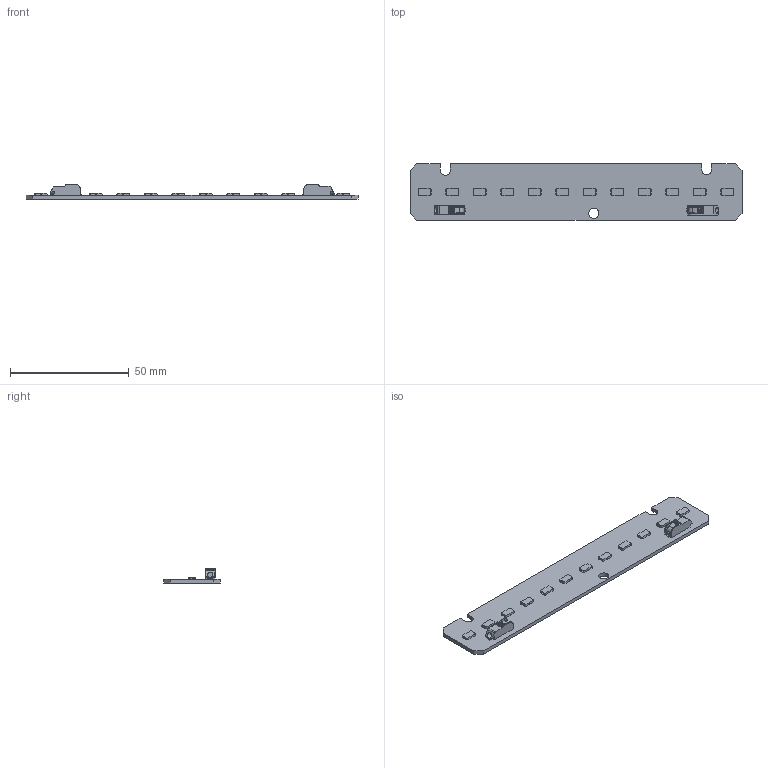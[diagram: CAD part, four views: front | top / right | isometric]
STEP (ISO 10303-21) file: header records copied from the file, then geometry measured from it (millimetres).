
FILE_DESCRIPTION((''),'2;1');
FILE_NAME('16206649_LLE24X140-G3-CLA_650LM','2016-06-24T',('bernhard.fink'),(''),'PRO/ENGINEER BY PARAMETRIC TECHNOLOGY CORPORATION, 2015200','PRO/ENGINEER BY PARAMETRIC TECHNOLOGY CORPORATION, 2015200','');
FILE_SCHEMA(('AUTOMOTIVE_DESIGN { 1 0 10303 214 1 1 1 1 }'));
Length unit declared in the file: millimetre
Products named in the file (1): 16206649_LLE24X140-G3-CLA_650LM
Bounding box: 139.8 x 23.8 x 6.15 mm (x, y, z)
Volume: 5832.7 mm3; surface area: 7899.3 mm2
Topology: 1 solids, 1 shells, 612 faces, 1754 edges, 1158 vertices
Faces by surface type: plane 474, cone 72, cylinder 62, sphere 4
Entity records: 28491 total; most frequent: CARTESIAN_POINT 3804, ORIENTED_EDGE 3500, DIRECTION 3166, PRESENTATION_STYLE_ASSIGNMENT 2167, STYLED_ITEM 1751, CURVE_STYLE 1750, EDGE_CURVE 1750, VECTOR 1386
